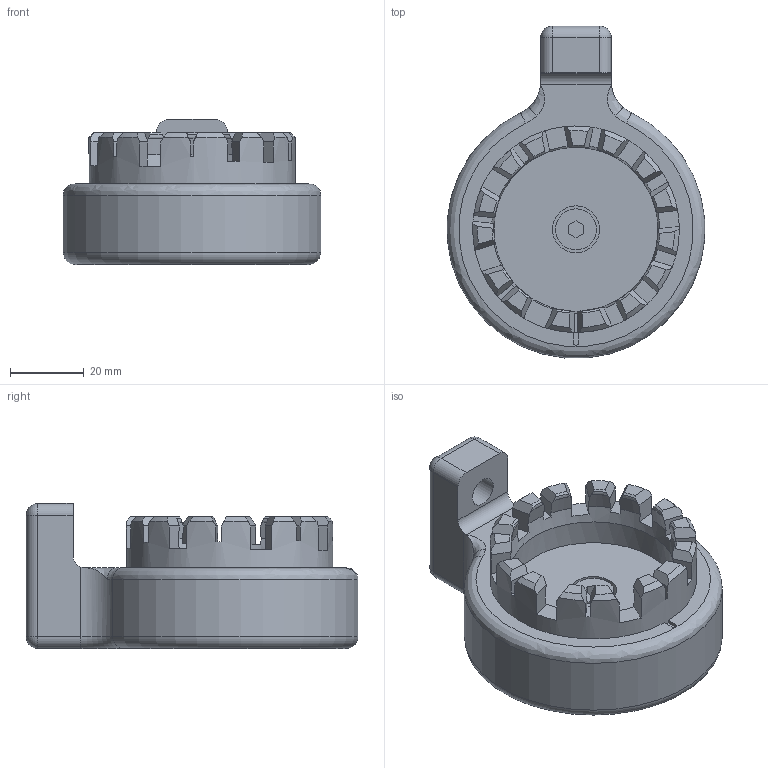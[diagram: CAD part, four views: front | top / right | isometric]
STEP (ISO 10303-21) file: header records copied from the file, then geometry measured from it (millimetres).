
FILE_DESCRIPTION((''),'2;1');
FILE_NAME('F:\CAD files\Itr\3D MARKETING MODELS\GRIPS\G1076\G1076.stp','2017-04-20T10:43:09',('mlampen'),(''),'Autodesk Inventor 2010','Autodesk Inventor 2010','');
FILE_SCHEMA(('AUTOMOTIVE_DESIGN { 1 0 10303 214 1 1 1 1 }'));
Length unit declared in the file: inch
Products named in the file (3): Assembly1; Part2; Part4
Assembly tree (2 placements, depth 2):
  Assembly1
    Part2
    Part4
Bounding box: 69.61 x 89.78 x 39.24 mm (x, y, z)
Volume: 98393.1 mm3; surface area: 30025.5 mm2
Topology: 2 solids, 2 shells, 1033 faces, 2901 edges, 1924 vertices
Faces by surface type: plane 924, cylinder 51, cone 46, bspline 5, sphere 4, torus 3
Full cylindrical faces by diameter (mm): 7.938 x2, 7.976 x1, 8.077 x1, 11.113 x1, 12.7 x1, 44.45 x1, 55.88 x1, 55.905 x1
Entity records: 32969 total; most frequent: CARTESIAN_POINT 6315, ORIENTED_EDGE 5762, DIRECTION 5141, EDGE_CURVE 2881, VECTOR 2487, LINE 2487, VERTEX_POINT 1918, AXIS2_PLACEMENT_3D 1327
